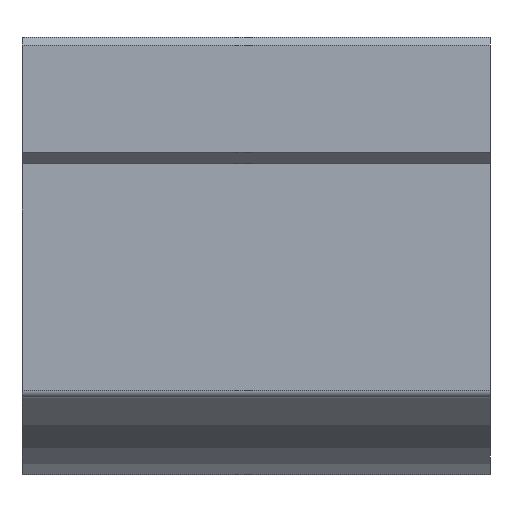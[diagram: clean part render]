
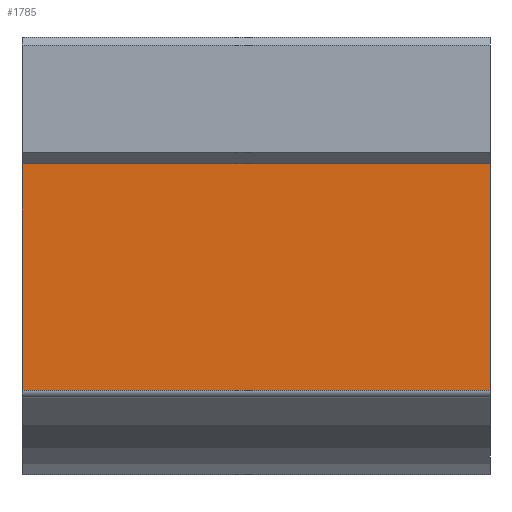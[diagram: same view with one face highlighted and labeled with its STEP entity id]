
A CAD part, front view. The second image highlights one B-rep face of the part: STEP entity #1785.
In plain terms, the highlighted planar face has unit normal (0, -1, 0).
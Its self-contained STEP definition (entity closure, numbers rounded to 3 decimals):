
#1522=CARTESIAN_POINT('',(122.,-63.,25.));
#1523=VERTEX_POINT('',#1522);
#1530=CARTESIAN_POINT('',(122.,-63.,-34.));
#1531=VERTEX_POINT('',#1530);
#1532=CARTESIAN_POINT('',(122.,-63.,-34.));
#1533=DIRECTION('',(0.0,0.0,1.0));
#1534=VECTOR('',#1533,59.);
#1535=LINE('',#1532,#1534);
#1536=EDGE_CURVE('',#1531,#1523,#1535,.T.);
#1600=CARTESIAN_POINT('',(0.0,-63.,-34.));
#1601=VERTEX_POINT('',#1600);
#1602=CARTESIAN_POINT('',(122.,-63.,-34.));
#1603=DIRECTION('',(-1.0,0.0,0.0));
#1604=VECTOR('',#1603,122.);
#1605=LINE('',#1602,#1604);
#1606=EDGE_CURVE('',#1531,#1601,#1605,.T.);
#1666=CARTESIAN_POINT('',(0.0,-63.,25.));
#1667=VERTEX_POINT('',#1666);
#1668=CARTESIAN_POINT('',(0.0,-63.,25.));
#1669=DIRECTION('',(0.0,0.0,-1.0));
#1670=VECTOR('',#1669,59.);
#1671=LINE('',#1668,#1670);
#1672=EDGE_CURVE('',#1667,#1601,#1671,.T.);
#1769=CARTESIAN_POINT('',(0.0,-63.,-36.));
#1770=DIRECTION('',(0.0,-1.0,0.0));
#1771=DIRECTION('',(0.0,0.0,-1.0));
#1772=AXIS2_PLACEMENT_3D('',#1769,#1770,#1771);
#1773=PLANE('',#1772);
#1774=ORIENTED_EDGE('',*,*,#1606,.F.);
#1775=ORIENTED_EDGE('',*,*,#1536,.T.);
#1776=CARTESIAN_POINT('',(0.0,-63.,25.));
#1777=DIRECTION('',(1.0,0.0,0.0));
#1778=VECTOR('',#1777,122.);
#1779=LINE('',#1776,#1778);
#1780=EDGE_CURVE('',#1667,#1523,#1779,.T.);
#1781=ORIENTED_EDGE('',*,*,#1780,.F.);
#1782=ORIENTED_EDGE('',*,*,#1672,.T.);
#1783=EDGE_LOOP('',(#1774,#1775,#1781,#1782));
#1784=FACE_OUTER_BOUND('',#1783,.T.);
#1785=ADVANCED_FACE('',(#1784),#1773,.T.);
